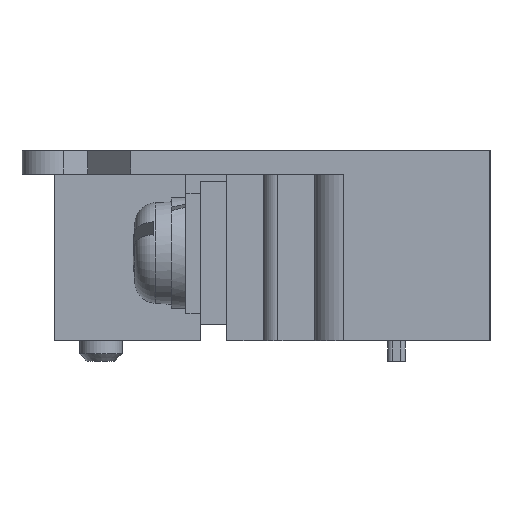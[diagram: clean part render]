
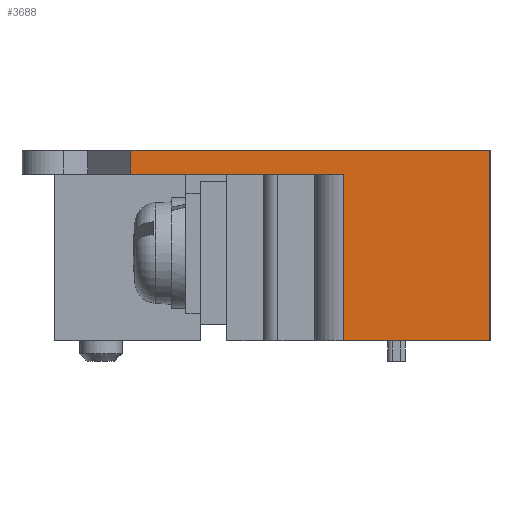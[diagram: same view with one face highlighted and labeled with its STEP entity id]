
A CAD part, left-side view. The second image highlights one B-rep face of the part: STEP entity #3688.
In plain terms, the highlighted planar face has unit normal (-1, 0, 0).
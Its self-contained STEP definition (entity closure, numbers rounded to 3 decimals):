
#206=PLANE('',#3960);
#382=FACE_OUTER_BOUND('',#587,.T.);
#587=EDGE_LOOP('',(#3049,#3050,#3051,#3052,#3053,#3054));
#821=LINE('',#5571,#1227);
#884=LINE('',#5718,#1290);
#951=LINE('',#5871,#1357);
#952=LINE('',#5874,#1358);
#953=LINE('',#5876,#1359);
#954=LINE('',#5877,#1360);
#1227=VECTOR('',#4414,10.);
#1290=VECTOR('',#4561,11.4);
#1357=VECTOR('',#4720,13.);
#1358=VECTOR('',#4723,24.563);
#1359=VECTOR('',#4724,1.6);
#1360=VECTOR('',#4725,14.563);
#1739=VERTEX_POINT('',#5568);
#1740=VERTEX_POINT('',#5570);
#1782=VERTEX_POINT('',#5716);
#1822=VERTEX_POINT('',#5869);
#1823=VERTEX_POINT('',#5873);
#1824=VERTEX_POINT('',#5875);
#2133=EDGE_CURVE('',#1739,#1740,#821,.T.);
#2205=EDGE_CURVE('',#1782,#1740,#884,.T.);
#2280=EDGE_CURVE('',#1822,#1739,#951,.T.);
#2281=EDGE_CURVE('',#1823,#1822,#952,.T.);
#2282=EDGE_CURVE('',#1824,#1823,#953,.T.);
#2283=EDGE_CURVE('',#1782,#1824,#954,.T.);
#3049=ORIENTED_EDGE('',*,*,#2280,.F.);
#3050=ORIENTED_EDGE('',*,*,#2281,.F.);
#3051=ORIENTED_EDGE('',*,*,#2282,.F.);
#3052=ORIENTED_EDGE('',*,*,#2283,.F.);
#3053=ORIENTED_EDGE('',*,*,#2205,.T.);
#3054=ORIENTED_EDGE('',*,*,#2133,.F.);
#3688=ADVANCED_FACE('',(#382),#206,.T.);
#3960=AXIS2_PLACEMENT_3D('',#5872,#4721,#4722);
#4414=DIRECTION('',(0.,1.,0.));
#4561=DIRECTION('',(0.,0.,-1.));
#4720=DIRECTION('',(0.,0.,-1.));
#4721=DIRECTION('center_axis',(-1.,0.,0.));
#4722=DIRECTION('ref_axis',(0.,-1.,0.));
#4723=DIRECTION('',(0.,-1.,0.));
#4724=DIRECTION('',(0.,0.,1.));
#4725=DIRECTION('',(0.,1.,0.));
#5568=CARTESIAN_POINT('',(-19.5,-4.5,-11.4));
#5570=CARTESIAN_POINT('',(-19.5,5.5,-11.4));
#5571=CARTESIAN_POINT('',(-19.5,-4.5,-11.4));
#5716=CARTESIAN_POINT('',(-19.5,5.5,0.));
#5718=CARTESIAN_POINT('',(-19.5,5.5,0.));
#5869=CARTESIAN_POINT('',(-19.5,-4.5,1.6));
#5871=CARTESIAN_POINT('',(-19.5,-4.5,0.));
#5872=CARTESIAN_POINT('Origin',(-19.5,20.063,0.));
#5873=CARTESIAN_POINT('',(-19.5,20.063,1.6));
#5874=CARTESIAN_POINT('',(-19.5,-4.5,1.6));
#5875=CARTESIAN_POINT('',(-19.5,20.063,0.));
#5876=CARTESIAN_POINT('',(-19.5,20.063,0.));
#5877=CARTESIAN_POINT('',(-19.5,-4.5,0.));
